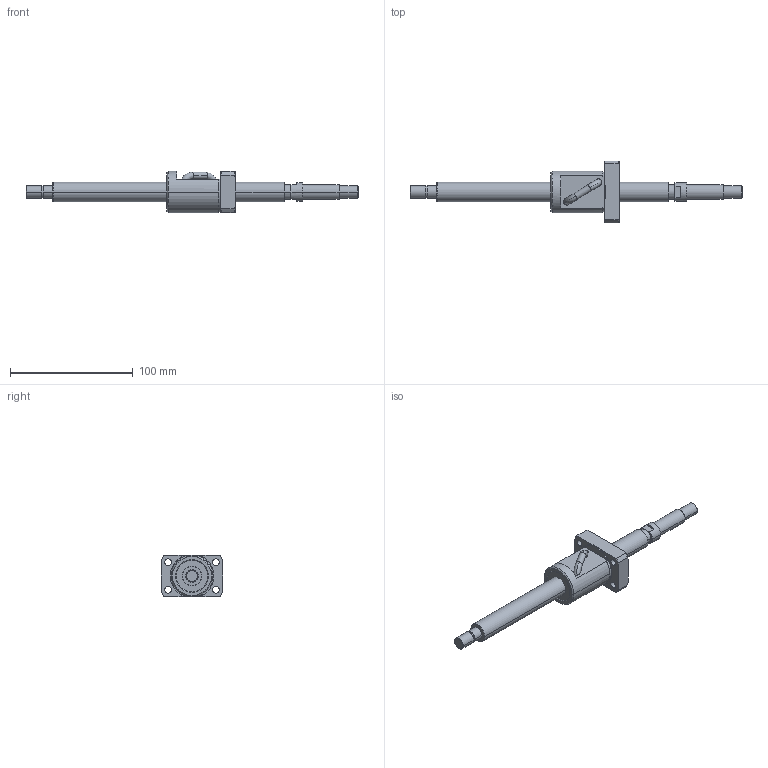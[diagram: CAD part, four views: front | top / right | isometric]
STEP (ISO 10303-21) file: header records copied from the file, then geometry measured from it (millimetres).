
FILE_DESCRIPTION (( 'STEP AP214' ), '1' );
FILE_NAME ('BS1616A-3D.STEP', '2014-03-05T14:51:08', ( '' ), ( '' ), 'SwSTEP 2.0', 'SolidWorks 2012', '' );
FILE_SCHEMA (( 'AUTOMOTIVE_DESIGN' ));
Length unit declared in the file: millimetre
Products named in the file (3): BS1616Aナット; BS1616AŽ²; BS1616A-3D
Assembly tree (2 placements, depth 2):
  BS1616A-3D
    BS1616AŽ²
    BS1616Aナット
Bounding box: 271 x 50 x 34 mm (x, y, z)
Volume: 87318.8 mm3; surface area: 28080.4 mm2
Topology: 2 solids, 2 shells, 156 faces, 399 edges, 258 vertices
Faces by surface type: cylinder 74, plane 42, cone 34, torus 4, bspline 2
Entity records: 6090 total; most frequent: CARTESIAN_POINT 2047, DIRECTION 834, ORIENTED_EDGE 794, EDGE_CURVE 397, AXIS2_PLACEMENT_3D 347, VERTEX_POINT 258, EDGE_LOOP 189, CIRCLE 188
